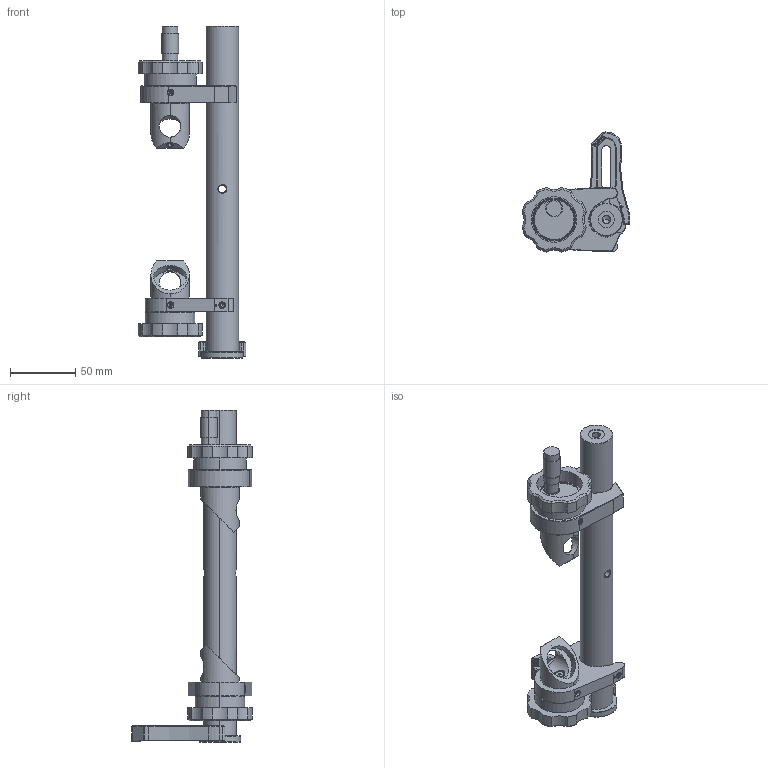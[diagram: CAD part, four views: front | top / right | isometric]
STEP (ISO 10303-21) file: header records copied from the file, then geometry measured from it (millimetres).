
FILE_DESCRIPTION((''),'2;1');
FILE_NAME('FRM1-CFJP250_ASM','2023-07-03T11:19:08',('R&D'),(''),'CREO PARAMETRIC BY PTC INC, 2021063','CREO PARAMETRIC BY PTC INC, 2021063','');
FILE_SCHEMA(('CONFIG_CONTROL_DESIGN'));
Products named in the file (34): FRM1-X2-5; FRM1-X3-5; FRM1-X5; FRM1-X2-7; FRM1-X2-8; FRM1-X4; FRM1-X2-10; FRM1-X2; FRM1-X2-15; FRM1-X3; FRM1-X2-45; FRM1-X2-25; FRM1-X2-11; FRM1-X2-14; ISO7380-1-M4X12-8_8; FRM1-X2-17; FRM1-X2-16_ASM; FRM1-X1_ASM; FRM1-A-21; FRM1-A-22; FRM1-A-23; FRM1-A-6; FRM1-A-24; FRM1-A-25; FRM1-A-9; FRM1-A-10; FRM1-A-3; FRM1-A-26; FRM1-A-1_ASM; FRM1-A-01_ASM; CFJP250-S; PCA31-S; M-BASE-C; FRM1-CFJP250_ASM
Assembly tree (34 placements, depth 4):
  FRM1-CFJP250_ASM
    FRM1-X1_ASM
      FRM1-X2-5
      FRM1-X3-5
      FRM1-X5
      FRM1-X2-7
      FRM1-X2-8
      FRM1-X4
      FRM1-X2-10
      FRM1-X2
      FRM1-X2-15
      FRM1-X3
      FRM1-X2-45
      FRM1-X2-25
      FRM1-X2-11  x2
      FRM1-X2-14
      ISO7380-1-M4X12-8_8
      FRM1-X2-16_ASM
        FRM1-X2-17
    FRM1-A-01_ASM
      FRM1-A-1_ASM
        FRM1-A-21
        FRM1-A-22
        FRM1-A-23
        FRM1-A-6
        FRM1-A-24
        FRM1-A-25
        FRM1-A-9
        FRM1-A-10
        FRM1-A-3
        FRM1-A-26
    CFJP250-S
    PCA31-S
    M-BASE-C
Bounding box: 82.81 x 92.16 x 254.7 mm (x, y, z)
Volume: 259228.7 mm3; surface area: 82156.2 mm2
Topology: 25 solids, 38 shells, 1152 faces, 2798 edges, 1755 vertices
Faces by surface type: plane 541, cylinder 335, cone 215, bspline 47, sphere 8, torus 6
Entity records: 48867 total; most frequent: CARTESIAN_POINT 21551, DIRECTION 5566, ORIENTED_EDGE 5442, EDGE_CURVE 2748, AXIS2_PLACEMENT_3D 1993, VERTEX_POINT 1749, VECTOR 1580, LINE 1580
